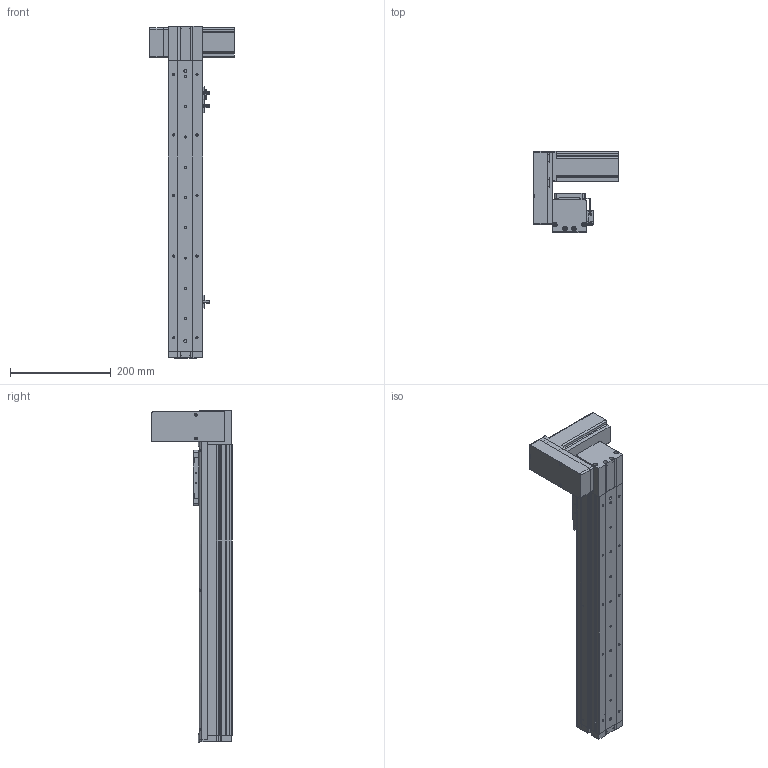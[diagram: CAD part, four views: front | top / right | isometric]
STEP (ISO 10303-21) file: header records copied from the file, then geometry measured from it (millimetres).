
FILE_DESCRIPTION (( 'STEP AP214' ), '1' );
FILE_NAME ('KSD68BS-S400-MRU-CR.STEP', '2019-08-28T06:01:17', ( '微软用户' ), ( '微软中国' ), 'SwSTEP 2.0', 'SolidWorks 2014', '' );
FILE_SCHEMA (( 'AUTOMOTIVE_DESIGN' ));
Length unit declared in the file: millimetre
Products named in the file (14): 68单导轨全封闭同步带安装板; 悵誘欶奻狟殏; 68宽马达安装板连板上折同步带; 感应片68宽全封闭; U倰嫖萇EEㄜSX672; 台达ECMA－C20604AS伺服电机（400W); KSD68BS 400行程底板全封闭; KSD68BS 400行程盖板全封闭; KSD68BS-S400-MRU-CR; 68遵裔啣揤啣1; 68宽单导轨全封闭丝杆传动安装板1防护罩; KSD68BS 400行程侧板全封闭; 68宽单导轨全封闭同步带端板; 68单导轨全封闭同步带电机座右
Assembly tree (17 placements, depth 2):
  KSD68BS-S400-MRU-CR
    KSD68BS 400行程底板全封闭
    台达ECMA－C20604AS伺服电机（400W)
    U倰嫖萇EEㄜSX672  x3
    感应片68宽全封闭
    68宽马达安装板连板上折同步带
    悵誘欶奻狟殏
    68单导轨全封闭同步带安装板
    68单导轨全封闭同步带电机座右
    68宽单导轨全封闭同步带端板
    KSD68BS 400行程侧板全封闭  x2
    68宽单导轨全封闭丝杆传动安装板1防护罩
    68遵裔啣揤啣1  x2
    KSD68BS 400行程盖板全封闭
Bounding box: 167.2 x 159.5 x 658.1 mm (x, y, z)
Volume: 1729580.7 mm3; surface area: 590116.4 mm2
Topology: 18 solids, 18 shells, 1374 faces, 3863 edges, 2485 vertices
Faces by surface type: plane 623, cylinder 619, cone 132
Entity records: 42434 total; most frequent: CARTESIAN_POINT 7079, DIRECTION 6435, ORIENTED_EDGE 6162, EDGE_CURVE 3081, AXIS2_PLACEMENT_3D 2287, VERTEX_POINT 2023, LINE 1861, VECTOR 1861
